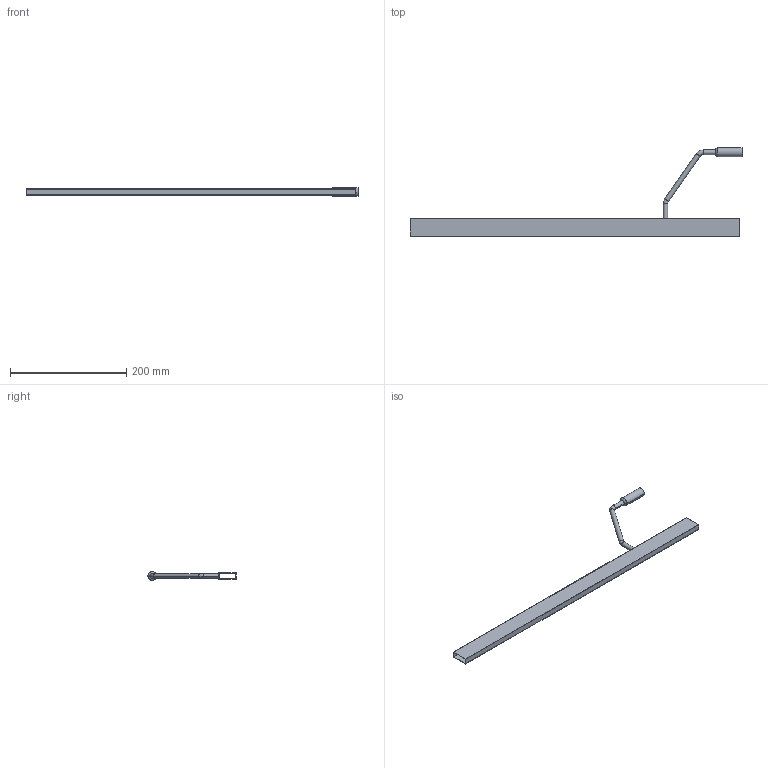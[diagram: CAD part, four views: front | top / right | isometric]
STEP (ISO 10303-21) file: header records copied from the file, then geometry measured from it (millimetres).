
FILE_DESCRIPTION (( 'STEP AP214' ), '1' );
FILE_NAME ('_DWD XP Rechteckreling mit Frontabstützung NL600.step', '2010-07-14T13:27:21', ( 'grass' ), ( '' ), 'SwSTEP 2.0', 'SolidWorks 2010', '' );
FILE_SCHEMA (( 'AUTOMOTIVE_DESIGN' ));
Length unit declared in the file: millimetre
Products named in the file (1): _DWD XP Rechteckreling mit Frontabstützung NL600
Bounding box: 571.6 x 151.9 x 15 mm (x, y, z)
Volume: 42634.7 mm3; surface area: 95550.6 mm2
Topology: 1 solids, 1 shells, 25 faces, 54 edges, 32 vertices
Faces by surface type: plane 11, cylinder 8, torus 6
Entity records: 712 total; most frequent: DIRECTION 128, CARTESIAN_POINT 112, ORIENTED_EDGE 108, EDGE_CURVE 54, AXIS2_PLACEMENT_3D 48, VERTEX_POINT 32, VECTOR 32, LINE 32
